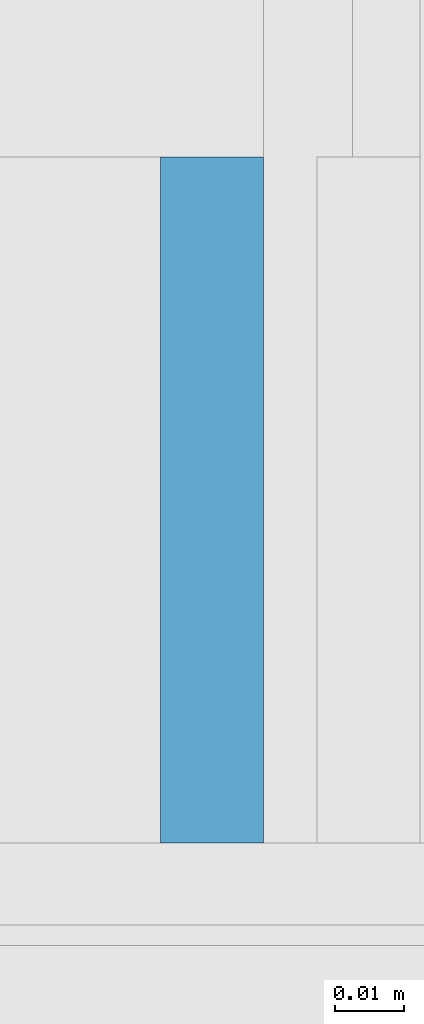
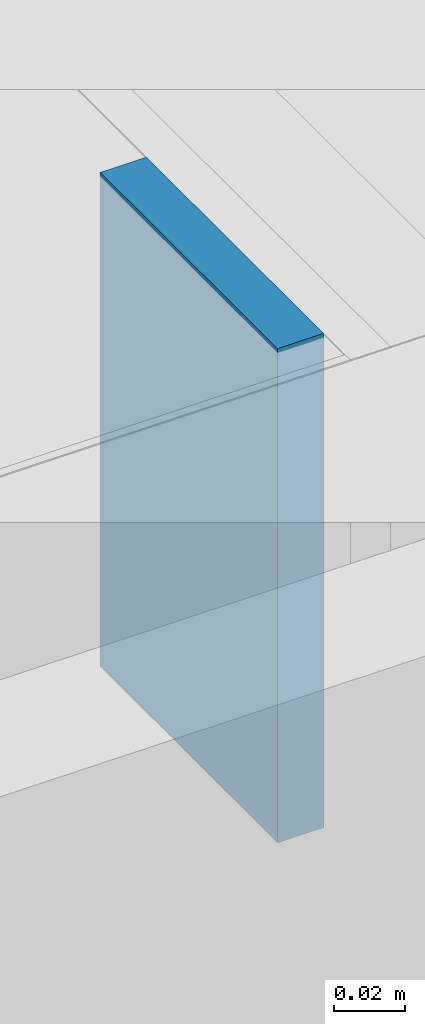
# One storey, part 189 of 583: 1 building element part, 1 element without a shape of its own.
"""IFC2X3 building model written with IfcOpenShell, lengths in metres."""

from ifc_helpers import new_model, entity, si_unit, converted_unit, derived_unit, money_unit, direction, frame, frame_2d, origin_with_axes, place, context, subcontext, project, spatial, rectangle, extrude, material, type_object, element, aggregate, save


model = new_model("IFC2X3")

# Units and contexts
model_context = context("Model", 3, precision=1e-05, world=origin_with_axes(), true_north=direction((0.0, 1.0)))
body_context = subcontext(model_context, "Body", "Model", "MODEL_VIEW", scale=1.0)
ifc_project = project(units=[si_unit("LENGTHUNIT", "METRE"), si_unit("AREAUNIT", "SQUARE_METRE"), si_unit("VOLUMEUNIT", "CUBIC_METRE"), si_unit("ABSORBEDDOSEUNIT", "GRAY"), si_unit("AMOUNTOFSUBSTANCEUNIT", "MOLE"), si_unit("DOSEEQUIVALENTUNIT", "SIEVERT"), si_unit("ELECTRICCAPACITANCEUNIT", "FARAD"), si_unit("ELECTRICCHARGEUNIT", "COULOMB"), si_unit("ELECTRICCONDUCTANCEUNIT", "SIEMENS"), si_unit("ELECTRICCURRENTUNIT", "AMPERE"), si_unit("ELECTRICRESISTANCEUNIT", "OHM"), si_unit("ELECTRICVOLTAGEUNIT", "VOLT"), si_unit("ENERGYUNIT", "JOULE"), si_unit("FORCEUNIT", "NEWTON"), si_unit("FREQUENCYUNIT", "HERTZ"), si_unit("ILLUMINANCEUNIT", "LUX"), si_unit("INDUCTANCEUNIT", "HENRY"), si_unit("LUMINOUSFLUXUNIT", "LUMEN"), si_unit("LUMINOUSINTENSITYUNIT", "CANDELA"), si_unit("MAGNETICFLUXDENSITYUNIT", "TESLA"), si_unit("MAGNETICFLUXUNIT", "WEBER"), si_unit("MASSUNIT", "GRAM"), converted_unit("PLANEANGLEUNIT", "degree", entity("IfcReal", 0.0174532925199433), si_unit("PLANEANGLEUNIT", "RADIAN"), dimensions=[0, 0, 0, 0, 0, 0, 0]), si_unit("POWERUNIT", "WATT"), si_unit("PRESSUREUNIT", "PASCAL"), si_unit("RADIOACTIVITYUNIT", "BECQUEREL"), si_unit("SOLIDANGLEUNIT", "STERADIAN"), si_unit("THERMODYNAMICTEMPERATUREUNIT", "KELVIN"), si_unit("TIMEUNIT", "SECOND"), derived_unit("ACCELERATIONUNIT", [(si_unit("LENGTHUNIT", "METRE"), 1), (si_unit("TIMEUNIT", "SECOND"), -2)]), derived_unit("ANGULARVELOCITYUNIT", [(converted_unit("PLANEANGLEUNIT", "degree", entity("IfcReal", 0.0174532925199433), si_unit("PLANEANGLEUNIT", "RADIAN"), dimensions=[0, 0, 0, 0, 0, 0, 0]), 1), (si_unit("TIMEUNIT", "SECOND"), -1)]), derived_unit("CURVATUREUNIT", [(converted_unit("PLANEANGLEUNIT", "degree", entity("IfcReal", 0.0174532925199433), si_unit("PLANEANGLEUNIT", "RADIAN"), dimensions=[0, 0, 0, 0, 0, 0, 0]), 1), (si_unit("LENGTHUNIT", "METRE"), -1)]), derived_unit("DYNAMICVISCOSITYUNIT", [(si_unit("PRESSUREUNIT", "PASCAL"), 1), (si_unit("TIMEUNIT", "SECOND"), 1)]), derived_unit("HEATFLUXDENSITYUNIT", [(si_unit("POWERUNIT", "WATT"), 1), (si_unit("LENGTHUNIT", "METRE"), -2)]), derived_unit("HEATINGVALUEUNIT", [(si_unit("ENERGYUNIT", "JOULE"), 1), (si_unit("MASSUNIT", "GRAM"), -1)]), derived_unit("INTEGERCOUNTRATEUNIT", [(si_unit("TIMEUNIT", "SECOND"), -1)]), derived_unit("IONCONCENTRATIONUNIT", [(si_unit("MASSUNIT", "GRAM"), 1), (si_unit("VOLUMEUNIT", "CUBIC_METRE"), -1)]), derived_unit("ISOTHERMALMOISTURECAPACITYUNIT", [(si_unit("VOLUMEUNIT", "CUBIC_METRE"), 1), (si_unit("MASSUNIT", "GRAM"), -1)]), derived_unit("KINEMATICVISCOSITYUNIT", [(si_unit("AREAUNIT", "SQUARE_METRE"), 1), (si_unit("TIMEUNIT", "SECOND"), -1)]), derived_unit("LINEARFORCEUNIT", [(si_unit("FORCEUNIT", "NEWTON"), 1), (si_unit("LENGTHUNIT", "METRE"), -1)]), derived_unit("LINEARMOMENTUNIT", [(si_unit("FORCEUNIT", "NEWTON"), 1), (si_unit("LENGTHUNIT", "METRE"), -1)]), derived_unit("LINEARSTIFFNESSUNIT", [(si_unit("FORCEUNIT", "NEWTON"), 1), (si_unit("LENGTHUNIT", "METRE"), -1)]), derived_unit("LINEARVELOCITYUNIT", [(si_unit("LENGTHUNIT", "METRE"), 1), (si_unit("TIMEUNIT", "SECOND"), -1)]), derived_unit("LUMINOUSINTENSITYDISTRIBUTIONUNIT", [(si_unit("LUMINOUSINTENSITYUNIT", "CANDELA"), 1), (si_unit("LUMINOUSFLUXUNIT", "LUMEN"), -1)]), derived_unit("MASSDENSITYUNIT", [(si_unit("MASSUNIT", "GRAM"), 1), (si_unit("VOLUMEUNIT", "CUBIC_METRE"), -1)]), derived_unit("MASSFLOWRATEUNIT", [(si_unit("MASSUNIT", "GRAM"), 1), (si_unit("TIMEUNIT", "SECOND"), -1)]), derived_unit("MASSPERLENGTHUNIT", [(si_unit("MASSUNIT", "GRAM"), 1), (si_unit("LENGTHUNIT", "METRE"), -1)]), derived_unit("MODULUSOFELASTICITYUNIT", [(si_unit("FORCEUNIT", "NEWTON"), 1), (si_unit("AREAUNIT", "SQUARE_METRE"), -1)]), derived_unit("MODULUSOFLINEARSUBGRADEREACTIONUNIT", [(si_unit("FORCEUNIT", "NEWTON"), 1), (si_unit("LENGTHUNIT", "METRE"), -2)]), derived_unit("MODULUSOFROTATIONALSUBGRADEREACTIONUNIT", [(si_unit("FORCEUNIT", "NEWTON"), 1), (si_unit("LENGTHUNIT", "METRE"), 1)]), derived_unit("MODULUSOFSUBGRADEREACTIONUNIT", [(si_unit("FORCEUNIT", "NEWTON"), 1), (si_unit("VOLUMEUNIT", "CUBIC_METRE"), -1)]), derived_unit("MOISTUREDIFFUSIVITYUNIT", [(si_unit("VOLUMEUNIT", "CUBIC_METRE"), 1), (si_unit("TIMEUNIT", "SECOND"), -1)]), derived_unit("MOLECULARWEIGHTUNIT", [(si_unit("MASSUNIT", "GRAM"), 1), (si_unit("AMOUNTOFSUBSTANCEUNIT", "MOLE"), -1)]), derived_unit("PLANARFORCEUNIT", [(si_unit("FORCEUNIT", "NEWTON"), 1), (si_unit("LENGTHUNIT", "METRE"), -2)]), derived_unit("ROTATIONALFREQUENCYUNIT", [(si_unit("TIMEUNIT", "SECOND"), -1)]), derived_unit("ROTATIONALMASSUNIT", [(si_unit("MASSUNIT", "GRAM"), 1), (si_unit("LENGTHUNIT", "METRE"), 2)]), derived_unit("ROTATIONALSTIFFNESSUNIT", [(si_unit("FORCEUNIT", "NEWTON"), 1), (si_unit("LENGTHUNIT", "METRE"), 1), (converted_unit("PLANEANGLEUNIT", "degree", entity("IfcReal", 0.0174532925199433), si_unit("PLANEANGLEUNIT", "RADIAN"), dimensions=[0, 0, 0, 0, 0, 0, 0]), -1)]), derived_unit("SECTIONAREAINTEGRALUNIT", [(si_unit("LENGTHUNIT", "METRE"), 5)]), derived_unit("SECTIONMODULUSUNIT", [(si_unit("LENGTHUNIT", "METRE"), 3)]), derived_unit("SHEARMODULUSUNIT", [(si_unit("FORCEUNIT", "NEWTON"), 1), (si_unit("AREAUNIT", "SQUARE_METRE"), -1)]), derived_unit("SOUNDPOWERUNIT", [(si_unit("ENERGYUNIT", "JOULE"), 1), (si_unit("TIMEUNIT", "SECOND"), -1)]), derived_unit("SPECIFICHEATCAPACITYUNIT", [(si_unit("FORCEUNIT", "NEWTON"), 1), (si_unit("MASSUNIT", "GRAM"), -1), (si_unit("THERMODYNAMICTEMPERATUREUNIT", "KELVIN"), -1)]), derived_unit("TEMPERATUREGRADIENTUNIT", [(si_unit("THERMODYNAMICTEMPERATUREUNIT", "KELVIN"), 1), (si_unit("LENGTHUNIT", "METRE"), -1)]), derived_unit("THERMALADMITTANCEUNIT", [(si_unit("POWERUNIT", "WATT"), 1), (si_unit("AREAUNIT", "SQUARE_METRE"), -1), (si_unit("THERMODYNAMICTEMPERATUREUNIT", "KELVIN"), -1)]), derived_unit("THERMALCONDUCTANCEUNIT", [(si_unit("POWERUNIT", "WATT"), 1), (si_unit("LENGTHUNIT", "METRE"), -1), (si_unit("THERMODYNAMICTEMPERATUREUNIT", "KELVIN"), -1)]), derived_unit("THERMALEXPANSIONCOEFFICIENTUNIT", [(si_unit("THERMODYNAMICTEMPERATUREUNIT", "KELVIN"), -1)]), derived_unit("THERMALRESISTANCEUNIT", [(si_unit("AREAUNIT", "SQUARE_METRE"), 1), (si_unit("POWERUNIT", "WATT"), -1)]), derived_unit("THERMALTRANSMITTANCEUNIT", [(si_unit("POWERUNIT", "WATT"), 1), (si_unit("AREAUNIT", "SQUARE_METRE"), -1), (si_unit("THERMODYNAMICTEMPERATUREUNIT", "KELVIN"), -1)]), derived_unit("TORQUEUNIT", [(si_unit("FORCEUNIT", "NEWTON"), 1), (si_unit("LENGTHUNIT", "METRE"), 1)]), derived_unit("VAPORPERMEABILITYUNIT", [(si_unit("MASSUNIT", "GRAM"), 1), (si_unit("TIMEUNIT", "SECOND"), -1)]), derived_unit("VOLUMETRICFLOWRATEUNIT", [(si_unit("VOLUMEUNIT", "CUBIC_METRE"), 1), (si_unit("TIMEUNIT", "SECOND"), -1)]), derived_unit("WARPINGCONSTANTUNIT", [(si_unit("LENGTHUNIT", "METRE"), 6)]), derived_unit("WARPINGMOMENTUNIT", [(si_unit("FORCEUNIT", "NEWTON"), 1), (si_unit("LENGTHUNIT", "METRE"), 2)]), money_unit("GBP")], contexts=[model_context])

# Site, building, storey
site_placement = place(None, origin_with_axes())
site = spatial("IfcSite", under=ifc_project, at=site_placement, Name="Site", CompositionType="ELEMENT")
building_placement = place(site_placement, origin_with_axes())
building = spatial("IfcBuilding", under=site, at=building_placement, Name="Building01", CompositionType="ELEMENT")
storey_placement = place(building_placement, frame((0.0, 0.0, 20.78), z_axis=(0.0, 0.0, 1.0), x_axis=(1.0, 0.0, 0.0)))
storey = spatial("IfcBuildingStorey", under=building, at=storey_placement, Name="RL", CompositionType="ELEMENT", Elevation=20.78)

# Wall, building element part
wall_type = type_object("IfcWallType", Name="SHE_A-Walls_Type06d_ExternalWallInsulation_48mm", PredefinedType="NOTDEFINED")
wall_placement = place(storey_placement, frame((11.08018, 5.15, 5.93), z_axis=(0.0, 1.0, 0.0), x_axis=(0.0, 0.0, 1.0)))
wall = element("IfcWall", 1, at=wall_placement, inside=storey, type_object=wall_type, Name="6D", ObjectType="SHE_A-Walls_Type06d_ExternalWallInsulation_48mm")
ifc_material = material(Name="A_BSUK_Walls_Timber")
building_element_part_placement = place(wall_placement, origin_with_axes())
building_element_part = element("IfcBuildingElementPart", 2, at=building_element_part_placement, material=ifc_material, Name="2", context=body_context, shape_type="SweptSolid", body=[
    extrude(rectangle(XDim=0.17, YDim=0.015, at=frame_2d((0.085, -0.0555), x_axis=(1.0, 0.0))), frame((0.0, 0.0, 0.015), z_axis=(0.0, 0.0, 1.0), x_axis=(1.0, 0.0, 0.0)), (0.0, 0.0, 1.0), 0.1),
])
aggregate(wall, [building_element_part])

save(model, "model.ifc")
